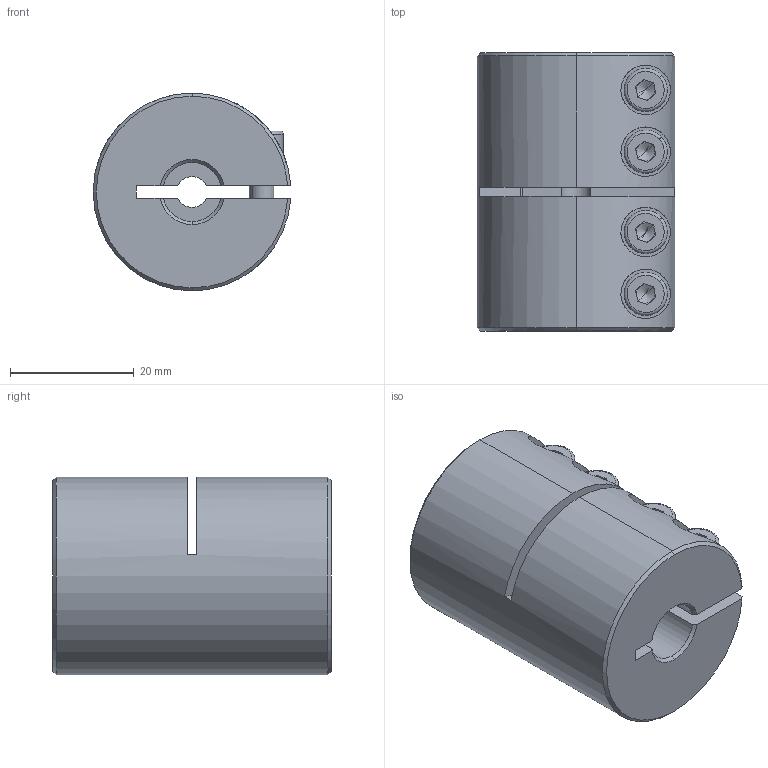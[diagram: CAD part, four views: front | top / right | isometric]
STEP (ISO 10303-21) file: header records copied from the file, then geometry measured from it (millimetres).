
FILE_DESCRIPTION (( 'STEP AP214' ), '1' );
FILE_NAME ('LL-B-D32L45-5-9.525½¨Ä£.STEP', '2022-07-21T06:22:25', ( '' ), ( '' ), 'SwSTEP 2.0', 'SolidWorks 2022', '' );
FILE_SCHEMA (( 'AUTOMOTIVE_DESIGN' ));
Length unit declared in the file: millimetre
Products named in the file (1): LL-B-D32L45-5-9.525膘耀
Bounding box: 31.97 x 45 x 32 mm (x, y, z)
Volume: 31378.6 mm3; surface area: 10759.3 mm2
Topology: 1 solids, 1 shells, 193 faces, 492 edges, 309 vertices
Faces by surface type: plane 88, cylinder 77, cone 20, torus 8
Entity records: 6357 total; most frequent: CARTESIAN_POINT 1583, DIRECTION 1037, ORIENTED_EDGE 968, EDGE_CURVE 484, AXIS2_PLACEMENT_3D 403, VERTEX_POINT 309, LINE 231, VECTOR 231
